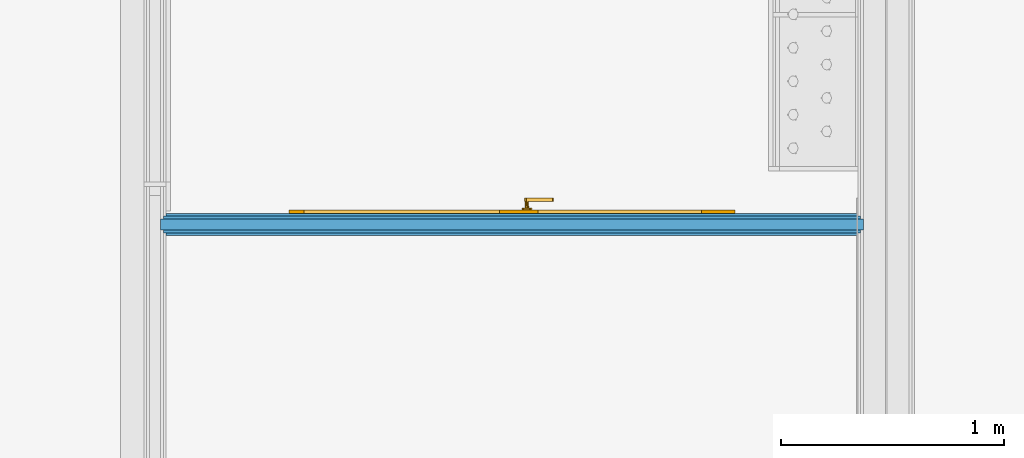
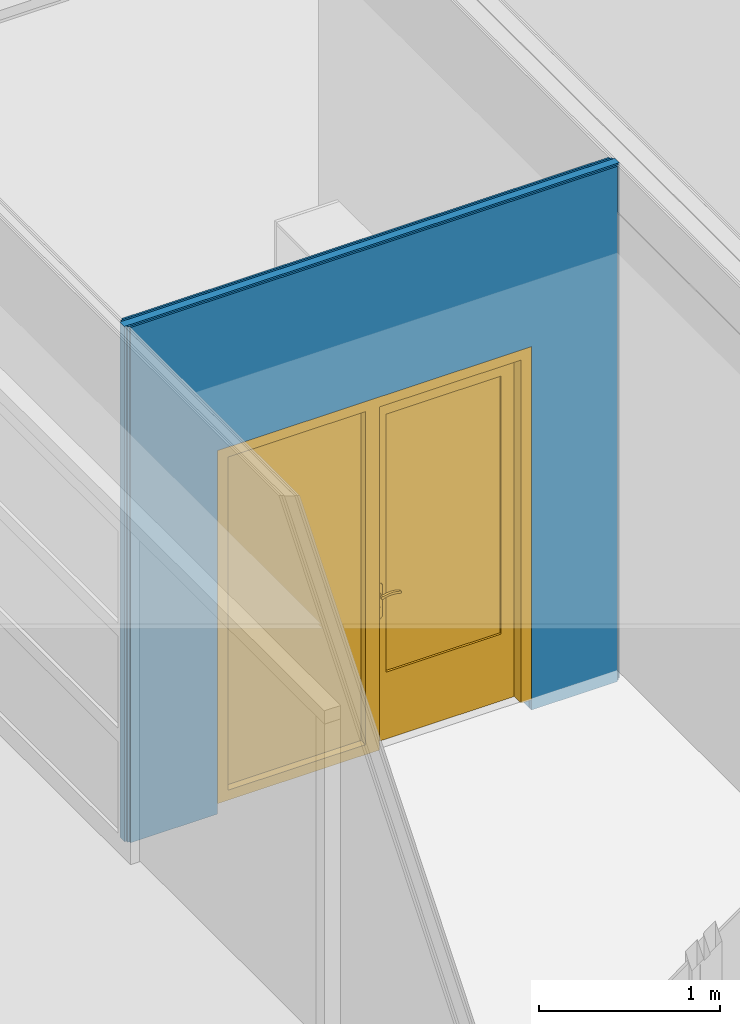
# One storey, part 13 of 788: 5 building element parts, 1 door, 1 opening, 1 element without a shape of its own.
"""IFC2X3 building model written with IfcOpenShell, lengths in millimetres."""

from ifc_helpers import new_model, entity, si_unit, converted_unit, derived_unit, money_unit, direction, frame, origin_with_axes, place, context, subcontext, project, spatial, open_shell, faceted_brep, surface_model, source, transform, mapped, material, type_object, type_shapes, element, fill, aggregate, save


model = new_model("IFC2X3")

# Units and contexts
model_context = context("Model", 3, precision=0.01, world=origin_with_axes(), true_north=direction((0.0, 1.0)))
plan_context = context("Plan", 3, precision=0.01, world=origin_with_axes(), true_north=direction((0.0, 1.0)))
body_context = subcontext(model_context, "Body", "Model", "MODEL_VIEW")
ifc_project = project(units=[si_unit("LENGTHUNIT", "METRE", prefix="MILLI"), si_unit("AREAUNIT", "SQUARE_METRE"), si_unit("VOLUMEUNIT", "CUBIC_METRE"), converted_unit("PLANEANGLEUNIT", "DEGREE", entity("IfcPlaneAngleMeasure", 0.0174532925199), si_unit("PLANEANGLEUNIT", "RADIAN"), dimensions=[0, 0, 0, 0, 0, 0, 0]), money_unit("EUR"), converted_unit("TIMEUNIT", "Year", entity("IfcTimeMeasure", 31556926.0), si_unit("TIMEUNIT", "SECOND"), dimensions=[0, 0, 1, 0, 0, 0, 0]), si_unit("MASSUNIT", "GRAM", prefix="KILO"), si_unit("THERMODYNAMICTEMPERATUREUNIT", "DEGREE_CELSIUS"), si_unit("LUMINOUSINTENSITYUNIT", "LUMEN"), si_unit("ENERGYUNIT", "JOULE", prefix="MEGA"), derived_unit("THERMALCONDUCTANCEUNIT", [(si_unit("POWERUNIT", "WATT"), 1), (si_unit("LENGTHUNIT", "METRE"), -1), (si_unit("THERMODYNAMICTEMPERATUREUNIT", "KELVIN"), -1)]), derived_unit("SPECIFICHEATCAPACITYUNIT", [(si_unit("ENERGYUNIT", "JOULE"), 1), (si_unit("MASSUNIT", "GRAM", prefix="KILO"), -1), (si_unit("THERMODYNAMICTEMPERATUREUNIT", "KELVIN"), -1)]), derived_unit("MASSDENSITYUNIT", [(si_unit("MASSUNIT", "GRAM", prefix="KILO"), 1), (si_unit("VOLUMEUNIT", "CUBIC_METRE"), -1)])], contexts=[model_context, plan_context])

# Site, building, storey
site_placement = place(None, origin_with_axes())
site = spatial("IfcSite", under=ifc_project, at=site_placement, Name="Site", CompositionType="ELEMENT")
building_placement = place(site_placement, origin_with_axes())
building = spatial("IfcBuilding", under=site, at=building_placement, Name="Naam gebouw", CompositionType="ELEMENT")
storey_placement = place(building_placement, origin_with_axes())
storey = spatial("IfcBuildingStorey", under=building, at=storey_placement, Name="Begane grond", CompositionType="ELEMENT", Elevation=0.0)

# Door
door_style = type_object("IfcDoorStyle", Name="D1 zl1-b 25", ConstructionType="NOTDEFINED", OperationType="SINGLE_SWING_RIGHT", ParameterTakesPrecedence=False, Sizeable=False)
shared_shape = source(origin_with_axes(), body_context, "Body", "SurfaceModel", [
    faceted_brep([(-1000.0, 0.0, 0.0), (-933.0, 0.0, 0.0), (-933.0, -114.0, 0.0), (-1000.0, -114.0, 0.0), (-1000.0, 0.0, 2310.0), (-933.0, 0.0, 2310.0), (-933.0, 0.0, 67.0), (-933.0, -114.0, 67.0), (-933.0, -114.0, 2310.0), (-1000.0, -114.0, 2310.0)], [[[0, 1, 2, 3]], [[0, 4, 5, 6, 1]], [[1, 6, 7, 2]], [[3, 2, 7, 8, 9]], [[4, 0, 3, 9]], [[5, 4, 9, 8]], [[6, 5, 8, 7]]]),
    faceted_brep([(33.0, -40.0, 0.0), (33.0, -40.0, 2310.0), (33.0, -114.0, 2310.0), (33.0, -114.0, 0.0), (16.0, -40.0, 2310.0), (16.0, -40.0, 0.0), (16.0, 0.0, 2310.0), (-57.0, 0.0, 2310.0), (-57.0, -114.0, 2310.0), (-57.0, -114.0, 0.0), (-57.0, -114.0, 67.0), (-57.0, 0.0, 0.0), (16.0, 0.0, 0.0), (-57.0, 0.0, 67.0)], [[[0, 1, 2, 3]], [[4, 1, 0, 5]], [[4, 6, 7, 8, 2, 1]], [[9, 3, 2, 8, 10]], [[5, 0, 3, 9, 11, 12]], [[6, 4, 5, 12]], [[6, 12, 11, 13, 7]], [[13, 10, 8, 7]], [[11, 9, 10, 13]]]),
    faceted_brep([(-933.0, 0.0, 67.0), (-933.0, 0.0, 0.0), (-933.0, -114.0, 0.0), (-933.0, -114.0, 67.0), (-57.0, 0.0, 67.0), (-57.0, 0.0, 0.0), (-57.0, -114.0, 0.0), (-57.0, -114.0, 67.0)], [[[0, 1, 2, 3]], [[0, 4, 5, 1]], [[1, 5, 6, 2]], [[3, 2, 6, 7]], [[4, 0, 3, 7]], [[5, 4, 7, 6]]]),
    faceted_brep([(950.0, -40.0, 2310.0), (933.0, -40.0, 2310.0), (933.0, -114.0, 2310.0), (1000.0, -114.0, 2310.0), (1000.0, 0.0, 2310.0), (950.0, 0.0, 2310.0), (950.0, -40.0, 0.0), (933.0, -40.0, 0.0), (933.0, -114.0, 0.0), (1000.0, -114.0, 0.0), (1000.0, 0.0, 0.0), (950.0, 0.0, 0.0)], [[[0, 1, 2, 3, 4, 5]], [[1, 0, 6, 7]], [[1, 7, 8, 2]], [[3, 2, 8, 9]], [[4, 3, 9, 10]], [[11, 5, 4, 10]], [[0, 5, 11, 6]], [[6, 11, 10, 9, 8, 7]]]),
    faceted_brep([(16.0, 0.0, 2327.0), (16.0, 0.0, 2310.0), (-57.0, 0.0, 2310.0), (-933.0, 0.0, 2310.0), (-1000.0, 0.0, 2310.0), (-1000.0, 0.0, 2377.0), (1000.0, 0.0, 2377.0), (1000.0, 0.0, 2310.0), (950.0, 0.0, 2310.0), (950.0, 0.0, 2327.0), (16.0, -40.0, 2327.0), (16.0, -40.0, 2310.0), (933.0, -40.0, 2310.0), (933.0, -114.0, 2310.0), (33.0, -114.0, 2310.0), (-57.0, -114.0, 2310.0), (-933.0, -114.0, 2310.0), (-1000.0, -114.0, 2310.0), (-1000.0, -114.0, 2377.0), (1000.0, -114.0, 2377.0), (1000.0, -114.0, 2310.0), (950.0, -40.0, 2310.0), (950.0, -40.0, 2327.0)], [[[0, 1, 2, 3, 4, 5, 6, 7, 8, 9]], [[1, 0, 10, 11]], [[11, 12, 13, 14, 15, 2, 1]], [[2, 15, 16, 3]], [[3, 16, 17, 4]], [[4, 17, 18, 5]], [[5, 18, 19, 6]], [[6, 19, 20, 7]], [[21, 8, 7, 20, 13, 12]], [[9, 8, 21, 22]], [[0, 9, 22, 10]], [[21, 12, 11, 10, 22]], [[13, 20, 19, 18, 17, 16, 15, 14]]]),
    faceted_brep([(61.2977179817, -80.0, 1006.47213595), (66.0, -80.0, 1008.0), (66.0, -60.0, 1008.0), (61.2977179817, -60.0, 1006.47213595), (58.3915478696, -80.0, 1002.47213595), (58.3915478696, -80.0, 997.527864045), (61.2977179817, -80.0, 993.527864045), (66.0, -80.0, 992.0), (70.7022820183, -80.0, 993.527864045), (73.6084521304, -80.0, 997.527864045), (73.6084521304, -80.0, 1002.47213595), (70.7022820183, -80.0, 1006.47213595), (70.7022820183, -60.0, 1006.47213595), (66.0, -58.0, 1010.0), (60.1221474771, -58.0, 1008.09016994), (58.3915478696, -60.0, 1002.47213595), (58.3915478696, -60.0, 997.527864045), (61.2977179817, -60.0, 993.527864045), (66.0, -60.0, 992.0), (70.7022820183, -60.0, 993.527864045), (73.6084521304, -60.0, 997.527864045), (73.6084521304, -60.0, 1002.47213595), (71.8778525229, -58.0, 1008.09016994), (66.0, -50.0, 1010.0), (60.1221474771, -50.0, 1008.09016994), (56.489434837, -58.0, 1003.09016994), (56.489434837, -58.0, 996.909830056), (60.1221474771, -58.0, 991.909830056), (66.0, -58.0, 990.0), (71.8778525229, -58.0, 991.909830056), (75.510565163, -58.0, 996.909830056), (75.510565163, -58.0, 1003.09016994), (71.8778525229, -50.0, 1008.09016994), (75.510565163, -50.0, 1003.09016994), (75.510565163, -50.0, 996.909830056), (71.8778525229, -50.0, 991.909830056), (66.0, -50.0, 990.0), (60.1221474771, -50.0, 991.909830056), (56.489434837, -50.0, 996.909830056), (56.489434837, -50.0, 1003.09016994)], [[[0, 1, 2, 3]], [[1, 0, 4, 5, 6, 7, 8, 9, 10, 11]], [[1, 11, 12, 2]], [[3, 2, 13, 14]], [[4, 0, 3, 15]], [[5, 4, 15, 16]], [[6, 5, 16, 17]], [[7, 6, 17, 18]], [[8, 7, 18, 19]], [[9, 8, 19, 20]], [[10, 9, 20, 21]], [[11, 10, 21, 12]], [[2, 12, 22, 13]], [[14, 13, 23, 24]], [[15, 3, 14, 25]], [[16, 15, 25, 26]], [[17, 16, 26, 27]], [[18, 17, 27, 28]], [[19, 18, 28, 29]], [[20, 19, 29, 30]], [[21, 20, 30, 31]], [[12, 21, 31, 22]], [[13, 22, 32, 23]], [[23, 32, 33, 34, 35, 36, 37, 38, 39, 24]], [[25, 14, 24, 39]], [[26, 25, 39, 38]], [[27, 26, 38, 37]], [[28, 27, 37, 36]], [[29, 28, 36, 35]], [[30, 29, 35, 34]], [[31, 30, 34, 33]], [[22, 31, 33, 32]]]),
    faceted_brep([(78.1883833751, -50.0, 1067.59695641), (70.4435558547, -50.0, 1071.95567195), (61.5564441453, -50.0, 1071.95567195), (53.8116166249, -50.0, 1067.59695641), (49.2, -50.0, 1060.0), (43.5, -50.0, 1060.0), (43.5, -50.0, 840.0), (49.2, -50.0, 840.0), (53.8116166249, -50.0, 832.403043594), (61.5564441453, -50.0, 828.044328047), (70.4435558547, -50.0, 828.044328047), (78.1883833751, -50.0, 832.403043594), (82.8, -50.0, 840.0), (88.5, -50.0, 840.0), (88.5, -50.0, 1060.0), (82.8, -50.0, 1060.0), (66.0, -50.0, 917.425445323), (71.375182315, -50.0, 915.143815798), (73.4678307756, -50.0, 909.692280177), (71.0, -50.0, 904.4), (71.0, -50.0, 887.5), (69.5355339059, -50.0, 883.964466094), (66.0, -50.0, 882.5), (62.4644660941, -50.0, 883.964466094), (61.0, -50.0, 887.5), (61.0, -50.0, 904.4), (58.5321692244, -50.0, 909.692280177), (60.624817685, -50.0, 915.143815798), (78.1883833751, -40.0, 1067.59695641), (70.4435558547, -40.0, 1071.95567195), (61.5564441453, -40.0, 1071.95567195), (53.8116166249, -40.0, 1067.59695641), (49.2, -40.0, 1060.0), (43.5, -40.0, 1060.0), (43.5, -40.0, 840.0), (49.2, -40.0, 840.0), (53.8116166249, -40.0, 832.403043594), (61.5564441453, -40.0, 828.044328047), (70.4435558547, -40.0, 828.044328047), (78.1883833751, -40.0, 832.403043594), (82.8, -40.0, 840.0), (88.5, -40.0, 840.0), (88.5, -40.0, 1060.0), (82.8, -40.0, 1060.0), (66.0, -40.0, 917.425445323), (71.375182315, -40.0, 915.143815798), (73.4678307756, -40.0, 909.692280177), (71.0, -40.0, 904.4), (71.0, -40.0, 887.5), (69.5355339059, -40.0, 883.964466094), (66.0, -40.0, 882.5), (62.4644660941, -40.0, 883.964466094), (61.0, -40.0, 887.5), (61.0, -40.0, 904.4), (58.5321692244, -40.0, 909.692280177), (60.624817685, -40.0, 915.143815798)], [[[0, 1, 2, 3, 4, 5, 6, 7, 8, 9, 10, 11, 12, 13, 14, 15], [16, 17, 18, 19, 20, 21, 22, 23, 24, 25, 26, 27]], [[1, 0, 28, 29]], [[2, 1, 29, 30]], [[3, 2, 30, 31]], [[4, 3, 31, 32]], [[5, 4, 32, 33]], [[6, 5, 33, 34]], [[7, 6, 34, 35]], [[8, 7, 35, 36]], [[9, 8, 36, 37]], [[10, 9, 37, 38]], [[11, 10, 38, 39]], [[12, 11, 39, 40]], [[13, 12, 40, 41]], [[14, 13, 41, 42]], [[15, 14, 42, 43]], [[0, 15, 43, 28]], [[17, 16, 44, 45]], [[18, 17, 45, 46]], [[19, 18, 46, 47]], [[19, 47, 48, 20]], [[20, 48, 49, 21]], [[21, 49, 50, 22]], [[22, 50, 51, 23]], [[23, 51, 52, 24]], [[53, 25, 24, 52]], [[26, 25, 53, 54]], [[27, 26, 54, 55]], [[16, 27, 55, 44]], [[40, 39, 38, 37, 36, 35, 34, 33, 32, 31, 30, 29, 28, 43, 42, 41], [54, 53, 52, 51, 50, 49, 48, 47, 46, 45, 44, 55]]]),
    faceted_brep([(180.253, -80.0, 1007.158), (180.253, -95.0, 1007.158), (180.254491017, -95.0, 1007.19388416), (180.254491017, -80.0, 1007.19388416), (153.225369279, -80.0, 1014.32652034), (153.225369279, -95.0, 1014.32652034), (125.397256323, -95.0, 1017.06086405), (97.4912596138, -95.0, 1015.29002982), (70.232, -95.0, 1009.06), (63.8294248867, -95.0, 1009.76125134), (58.3273660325, -95.0, 1006.41280843), (56.0084873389, -95.0, 1000.40385485), (57.8348324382, -95.0, 994.227352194), (63.0486973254, -95.0, 990.445773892), (69.4869824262, -95.0, 990.628000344), (74.4786074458, -95.0, 994.698430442), (74.458, -95.0, 994.666), (99.7467138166, -95.0, 1000.19878945), (125.589181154, -95.0, 1001.71460194), (151.351315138, -95.0, 999.176244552), (176.401, -95.0, 992.646), (181.944184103, -95.0, 993.568490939), (185.30572551, -95.0, 998.071591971), (184.614155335, -95.0, 1003.64829442), (184.614155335, -80.0, 1003.64829442), (185.30572551, -80.0, 998.071591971), (181.944184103, -80.0, 993.568490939), (176.401, -80.0, 992.646), (151.351315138, -80.0, 999.176244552), (125.589181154, -80.0, 1001.71460194), (99.7467138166, -80.0, 1000.19878945), (74.458, -80.0, 994.666), (74.4786074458, -80.0, 994.698430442), (69.4869824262, -80.0, 990.628000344), (63.0486973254, -80.0, 990.445773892), (57.8348324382, -80.0, 994.227352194), (56.0084873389, -80.0, 1000.40385485), (58.3273660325, -80.0, 1006.41280843), (63.8294248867, -80.0, 1009.76125134), (70.232, -80.0, 1009.06), (97.4912596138, -80.0, 1015.29002982), (125.397256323, -80.0, 1017.06086405)], [[[0, 1, 2, 3]], [[4, 5, 1, 0]], [[1, 5, 6, 7, 8, 9, 10, 11, 12, 13, 14, 15, 16, 17, 18, 19, 20, 21, 22, 23, 2]], [[3, 2, 23, 24]], [[0, 3, 24, 25, 26, 27, 28, 29, 30, 31, 32, 33, 34, 35, 36, 37, 38, 39, 40, 41, 4]], [[41, 6, 5, 4]], [[40, 7, 6, 41]], [[39, 8, 7, 40]], [[38, 9, 8, 39]], [[37, 10, 9, 38]], [[36, 11, 10, 37]], [[35, 12, 11, 36]], [[34, 13, 12, 35]], [[33, 14, 13, 34]], [[32, 15, 14, 33]], [[31, 16, 15, 32]], [[30, 17, 16, 31]], [[29, 18, 17, 30]], [[28, 19, 18, 29]], [[27, 20, 19, 28]], [[26, 21, 20, 27]], [[25, 22, 21, 26]], [[24, 23, 22, 25]]]),
    faceted_brep([(61.2977179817, 40.0, 1006.47213595), (61.2977179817, 20.0, 1006.47213595), (66.0, 20.0, 1008.0), (66.0, 40.0, 1008.0), (58.3915478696, 40.0, 1002.47213595), (58.3915478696, 20.0, 1002.47213595), (60.1221474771, 18.0, 1008.09016994), (66.0, 18.0, 1010.0), (70.7022820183, 20.0, 1006.47213595), (70.7022820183, 40.0, 1006.47213595), (73.6084521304, 40.0, 1002.47213595), (73.6084521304, 40.0, 997.527864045), (70.7022820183, 40.0, 993.527864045), (66.0, 40.0, 992.0), (61.2977179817, 40.0, 993.527864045), (58.3915478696, 40.0, 997.527864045), (58.3915478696, 20.0, 997.527864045), (56.489434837, 18.0, 1003.09016994), (60.1221474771, 10.0, 1008.09016994), (66.0, 10.0, 1010.0), (71.8778525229, 18.0, 1008.09016994), (73.6084521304, 20.0, 1002.47213595), (73.6084521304, 20.0, 997.527864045), (70.7022820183, 20.0, 993.527864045), (66.0, 20.0, 992.0), (61.2977179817, 20.0, 993.527864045), (56.489434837, 18.0, 996.909830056), (56.489434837, 10.0, 1003.09016994), (56.489434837, 10.0, 996.909830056), (60.1221474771, 10.0, 991.909830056), (66.0, 10.0, 990.0), (71.8778525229, 10.0, 991.909830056), (75.510565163, 10.0, 996.909830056), (75.510565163, 10.0, 1003.09016994), (71.8778525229, 10.0, 1008.09016994), (75.510565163, 18.0, 1003.09016994), (75.510565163, 18.0, 996.909830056), (71.8778525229, 18.0, 991.909830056), (66.0, 18.0, 990.0), (60.1221474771, 18.0, 991.909830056)], [[[0, 1, 2, 3]], [[4, 5, 1, 0]], [[1, 6, 7, 2]], [[3, 2, 8, 9]], [[3, 9, 10, 11, 12, 13, 14, 15, 4, 0]], [[15, 16, 5, 4]], [[5, 17, 6, 1]], [[6, 18, 19, 7]], [[2, 7, 20, 8]], [[9, 8, 21, 10]], [[10, 21, 22, 11]], [[11, 22, 23, 12]], [[12, 23, 24, 13]], [[13, 24, 25, 14]], [[14, 25, 16, 15]], [[16, 26, 17, 5]], [[17, 27, 18, 6]], [[19, 18, 27, 28, 29, 30, 31, 32, 33, 34]], [[7, 19, 34, 20]], [[8, 20, 35, 21]], [[21, 35, 36, 22]], [[22, 36, 37, 23]], [[23, 37, 38, 24]], [[24, 38, 39, 25]], [[25, 39, 26, 16]], [[26, 28, 27, 17]], [[39, 29, 28, 26]], [[38, 30, 29, 39]], [[37, 31, 30, 38]], [[36, 32, 31, 37]], [[35, 33, 32, 36]], [[20, 34, 33, 35]]]),
    faceted_brep([(78.1883833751, 0.0, 1067.59695641), (70.4435558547, 0.0, 1071.95567195), (61.5564441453, 0.0, 1071.95567195), (53.8116166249, 0.0, 1067.59695641), (49.2, 0.0, 1060.0), (43.5, 0.0, 1060.0), (43.5, 0.0, 840.0), (49.2, 0.0, 840.0), (53.8116166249, 0.0, 832.403043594), (61.5564441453, 0.0, 828.044328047), (70.4435558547, 0.0, 828.044328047), (78.1883833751, 0.0, 832.403043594), (82.8, 0.0, 840.0), (88.5, 0.0, 840.0), (88.5, 0.0, 1060.0), (82.8, 0.0, 1060.0), (66.0, 0.0, 917.425445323), (71.375182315, 0.0, 915.143815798), (73.4678307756, 0.0, 909.692280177), (71.0, 0.0, 904.4), (71.0, 0.0, 887.5), (69.5355339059, 0.0, 883.964466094), (66.0, 0.0, 882.5), (62.4644660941, 0.0, 883.964466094), (61.0, 0.0, 887.5), (61.0, 0.0, 904.4), (58.5321692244, 0.0, 909.692280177), (60.624817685, 0.0, 915.143815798), (70.4435558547, 10.0, 1071.95567195), (78.1883833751, 10.0, 1067.59695641), (61.5564441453, 10.0, 1071.95567195), (53.8116166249, 10.0, 1067.59695641), (49.2, 10.0, 1060.0), (43.5, 10.0, 1060.0), (43.5, 10.0, 840.0), (49.2, 10.0, 840.0), (53.8116166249, 10.0, 832.403043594), (61.5564441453, 10.0, 828.044328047), (70.4435558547, 10.0, 828.044328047), (78.1883833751, 10.0, 832.403043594), (82.8, 10.0, 840.0), (88.5, 10.0, 840.0), (88.5, 10.0, 1060.0), (82.8, 10.0, 1060.0), (66.0, 10.0, 917.425445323), (71.375182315, 10.0, 915.143815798), (73.4678307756, 10.0, 909.692280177), (71.0, 10.0, 904.4), (71.0, 10.0, 887.5), (69.5355339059, 10.0, 883.964466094), (66.0, 10.0, 882.5), (62.4644660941, 10.0, 883.964466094), (61.0, 10.0, 887.5), (61.0, 10.0, 904.4), (58.5321692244, 10.0, 909.692280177), (60.624817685, 10.0, 915.143815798)], [[[0, 1, 2, 3, 4, 5, 6, 7, 8, 9, 10, 11, 12, 13, 14, 15], [16, 17, 18, 19, 20, 21, 22, 23, 24, 25, 26, 27]], [[28, 1, 0, 29]], [[30, 2, 1, 28]], [[31, 3, 2, 30]], [[32, 4, 3, 31]], [[33, 5, 4, 32]], [[34, 6, 5, 33]], [[35, 7, 6, 34]], [[36, 8, 7, 35]], [[37, 9, 8, 36]], [[38, 10, 9, 37]], [[39, 11, 10, 38]], [[40, 12, 11, 39]], [[41, 13, 12, 40]], [[42, 14, 13, 41]], [[43, 15, 14, 42]], [[29, 0, 15, 43]], [[17, 16, 44, 45]], [[18, 17, 45, 46]], [[19, 18, 46, 47]], [[19, 47, 48, 20]], [[20, 48, 49, 21]], [[21, 49, 50, 22]], [[22, 50, 51, 23]], [[23, 51, 52, 24]], [[53, 25, 24, 52]], [[26, 25, 53, 54]], [[27, 26, 54, 55]], [[16, 27, 55, 44]], [[40, 39, 38, 37, 36, 35, 34, 33, 32, 31, 30, 28, 29, 43, 42, 41], [54, 53, 52, 51, 50, 49, 48, 47, 46, 45, 44, 55]]]),
    faceted_brep([(180.253, 40.0, 1007.158), (180.254491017, 40.0, 1007.19388416), (180.254491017, 55.0, 1007.19388416), (180.253, 55.0, 1007.158), (153.225369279, 40.0, 1014.32652034), (125.397256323, 40.0, 1017.06086405), (97.4912596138, 40.0, 1015.29002982), (70.232, 40.0, 1009.06), (63.8294248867, 40.0, 1009.76125134), (58.3273660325, 40.0, 1006.41280843), (56.0084873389, 40.0, 1000.40385485), (57.8348324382, 40.0, 994.227352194), (63.0486973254, 40.0, 990.445773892), (69.4869824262, 40.0, 990.628000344), (74.4786074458, 40.0, 994.698430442), (74.458, 40.0, 994.666), (99.7467138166, 40.0, 1000.19878945), (125.589181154, 40.0, 1001.71460194), (151.351315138, 40.0, 999.176244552), (176.401, 40.0, 992.646), (181.944184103, 40.0, 993.568490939), (185.30572551, 40.0, 998.071591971), (184.614155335, 40.0, 1003.64829442), (184.614155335, 55.0, 1003.64829442), (185.30572551, 55.0, 998.071591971), (181.944184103, 55.0, 993.568490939), (176.401, 55.0, 992.646), (151.351315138, 55.0, 999.176244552), (125.589181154, 55.0, 1001.71460194), (99.7467138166, 55.0, 1000.19878945), (74.458, 55.0, 994.666), (74.4786074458, 55.0, 994.698430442), (69.4869824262, 55.0, 990.628000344), (63.0486973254, 55.0, 990.445773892), (57.8348324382, 55.0, 994.227352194), (56.0084873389, 55.0, 1000.40385485), (58.3273660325, 55.0, 1006.41280843), (63.8294248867, 55.0, 1009.76125134), (70.232, 55.0, 1009.06), (97.4912596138, 55.0, 1015.29002982), (125.397256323, 55.0, 1017.06086405), (153.225369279, 55.0, 1014.32652034)], [[[0, 1, 2, 3]], [[0, 4, 5, 6, 7, 8, 9, 10, 11, 12, 13, 14, 15, 16, 17, 18, 19, 20, 21, 22, 1]], [[1, 22, 23, 2]], [[3, 2, 23, 24, 25, 26, 27, 28, 29, 30, 31, 32, 33, 34, 35, 36, 37, 38, 39, 40, 41]], [[4, 0, 3, 41]], [[5, 4, 41, 40]], [[6, 5, 40, 39]], [[7, 6, 39, 38]], [[8, 7, 38, 37]], [[9, 8, 37, 36]], [[10, 9, 36, 35]], [[11, 10, 35, 34]], [[12, 11, 34, 33]], [[13, 12, 33, 32]], [[14, 13, 32, 31]], [[15, 14, 31, 30]], [[16, 15, 30, 29]], [[17, 16, 29, 28]], [[18, 17, 28, 27]], [[19, 18, 27, 26]], [[20, 19, 26, 25]], [[21, 20, 25, 24]], [[22, 21, 24, 23]]]),
    faceted_brep([(950.0, 0.0, 450.0), (950.0, -40.0, 450.0), (850.0, -40.0, 450.0), (850.0, 0.0, 450.0), (950.0, 0.0, 2187.0), (950.0, -40.0, 2187.0), (850.0, -40.0, 2187.0), (850.0, 0.0, 2187.0)], [[[0, 1, 2, 3]], [[4, 5, 1, 0]], [[1, 5, 6, 2]], [[3, 2, 6, 7]], [[0, 3, 7, 4]], [[7, 6, 5, 4]]]),
    faceted_brep([(16.0, 0.0, 450.0), (16.0, -40.0, 450.0), (16.0, -40.0, 2187.0), (16.0, 0.0, 2187.0), (116.0, 0.0, 450.0), (116.0, -40.0, 450.0), (116.0, -40.0, 2187.0), (116.0, 0.0, 2187.0)], [[[0, 1, 2, 3]], [[4, 5, 1, 0]], [[1, 5, 6, 2]], [[3, 2, 6, 7]], [[0, 3, 7, 4]], [[7, 6, 5, 4]]]),
    faceted_brep([(950.0, 0.0, 0.0), (950.0, -40.0, 0.0), (16.0, -40.0, 0.0), (16.0, 0.0, 0.0), (950.0, 0.0, 450.0), (950.0, -40.0, 450.0), (850.0, -40.0, 450.0), (116.0, -40.0, 450.0), (16.0, -40.0, 450.0), (16.0, 0.0, 450.0), (116.0, 0.0, 450.0), (850.0, 0.0, 450.0)], [[[0, 1, 2, 3]], [[4, 5, 1, 0]], [[1, 5, 6, 7, 8, 2]], [[3, 2, 8, 9]], [[0, 3, 9, 10, 11, 4]], [[11, 6, 5, 4]], [[10, 7, 6, 11]], [[9, 8, 7, 10]]]),
    faceted_brep([(950.0, 0.0, 2327.0), (950.0, -40.0, 2327.0), (950.0, -40.0, 2187.0), (950.0, 0.0, 2187.0), (16.0, 0.0, 2327.0), (16.0, -40.0, 2327.0), (16.0, -40.0, 2187.0), (116.0, -40.0, 2187.0), (850.0, -40.0, 2187.0), (850.0, 0.0, 2187.0), (116.0, 0.0, 2187.0), (16.0, 0.0, 2187.0)], [[[0, 1, 2, 3]], [[4, 5, 1, 0]], [[1, 5, 6, 7, 8, 2]], [[3, 2, 8, 9]], [[0, 3, 9, 10, 11, 4]], [[11, 6, 5, 4]], [[10, 7, 6, 11]], [[9, 8, 7, 10]]]),
    surface_model("IfcShellBasedSurfaceModel", [(850.0, -14.0, 450.0), (116.0, -14.0, 450.0), (116.0, -14.0, 2187.0), (850.0, -14.0, 2187.0)], [open_shell([[[0, 1, 2, 3]]])]),
    surface_model("IfcShellBasedSurfaceModel", [(850.0, -26.0, 450.0), (850.0, -26.0, 2187.0), (116.0, -26.0, 2187.0), (116.0, -26.0, 450.0)], [open_shell([[[0, 1, 2, 3]]])]),
    surface_model("IfcShellBasedSurfaceModel", [(-933.0, -54.0, 67.0), (-933.0, -54.0, 2310.0), (-57.0, -54.0, 2310.0), (-57.0, -54.0, 67.0)], [open_shell([[[0, 1, 2, 3]]])]),
    surface_model("IfcShellBasedSurfaceModel", [(-933.0, -66.0, 67.0), (-57.0, -66.0, 67.0), (-57.0, -66.0, 2310.0), (-933.0, -66.0, 2310.0)], [open_shell([[[0, 1, 2, 3]]])]),
])
type_shapes(door_style, [shared_shape])
wall_placement = place(storey_placement, frame((10863.9874245, 7219.99642804, -70.0), z_axis=(0.0, 0.0, 1.0), x_axis=(1.0, 0.0, 0.0)))
opening_placement = place(wall_placement, frame((1602.00953938, 0.0, 70.0), z_axis=(0.0, 0.0, 1.0), x_axis=(1.0, 0.0, 0.0)))
door_placement = place(opening_placement, frame((-1000.0, 0.0, 0.0), z_axis=(0.0, 0.0, 1.0), x_axis=(1.0, 0.0, 0.0)))
door = element("IfcDoor", 1, at=door_placement, inside=storey, type_object=door_style, Name="b1.23g", ObjectType="DOOR", OverallHeight=2377.0, OverallWidth=2000.0, context=body_context, shape_type="MappedRepresentation", body=[
    mapped(shared_shape, transform((1000.0, 64.0, 0.0))),
])

# Wall, opening
wall_type = type_object("IfcWallType", Name="22 Metalstud 100mm 100", PredefinedType="ELEMENTEDWALL")
wall = element("IfcWall", 2, at=wall_placement, inside=storey, type_object=wall_type, Name="Metalstud 100mm")
opening = element("IfcOpeningElement", 3, at=opening_placement, cuts=wall, Name="b1.23g", context=body_context, shape_type="Brep", body=[
    faceted_brep([(1000.0, -100.0, 2377.0), (1000.0, -100.0, 0.0), (1000.0, 214.0, 0.0), (1000.0, 214.0, 2377.0), (-1000.0, -100.0, 2377.0), (-1000.0, -100.0, 0.0), (-1000.0, 214.0, 0.0), (-1000.0, 214.0, 2377.0)], [[[0, 1, 2, 3]], [[0, 4, 5, 1]], [[1, 5, 6, 2]], [[3, 2, 6, 7]], [[4, 0, 3, 7]], [[5, 4, 7, 6]]]),
])

fill(opening, door)

# Building element part
ifc_material_1 = material(Name="Gipsplaat")
building_element_part_1_placement = place(wall_placement, origin_with_axes())
building_element_part_1 = element("IfcBuildingElementPart", 4, at=building_element_part_1_placement, material=ifc_material_1, Name="Gipsplaat", context=body_context, shape_type="Brep", body=[
    faceted_brep([(602.009539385, 50.0, 2447.0), (602.009539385, 50.0, 70.0), (602.009539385, 50.0, 0.0), (50.0, 50.0, 0.0), (50.0, 50.0, 3470.0), (3152.10943638, 50.0, 3470.0), (3152.10943638, 50.0, 0.0), (2602.00953938, 50.0, 0.0), (2602.00953938, 50.0, 70.0), (2602.00953938, 50.0, 2447.0), (602.009539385, 37.5, 2447.0), (602.009539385, 37.5, 70.0), (602.009539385, 37.5, 0.0), (50.0, 37.5, 0.0), (50.0, 37.5, 3470.0), (3152.10943638, 37.5, 3470.0), (3152.10943638, 37.5, 0.0), (2602.00953938, 37.5, 0.0), (2602.00953938, 37.5, 70.0), (2602.00953938, 37.5, 2447.0)], [[[0, 1, 2, 3, 4, 5, 6, 7, 8, 9]], [[1, 0, 10, 11]], [[1, 11, 12, 2]], [[12, 13, 3, 2]], [[14, 4, 3, 13]], [[5, 4, 14, 15]], [[15, 16, 6, 5]], [[7, 6, 16, 17]], [[18, 8, 7, 17]], [[9, 8, 18, 19]], [[0, 9, 19, 10]], [[19, 18, 17, 16, 15, 14, 13, 12, 11, 10]]]),
])

building_element_part_2_placement = place(wall_placement, origin_with_axes())
building_element_part_2 = element("IfcBuildingElementPart", 5, at=building_element_part_2_placement, material=ifc_material_1, Name="Gipsplaat", context=body_context, shape_type="Brep", body=[
    faceted_brep([(602.009539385, 37.5, 2447.0), (602.009539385, 37.5, 70.0), (602.009539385, 37.5, 0.0), (37.5, 37.5, 0.0), (37.5, 37.5, 3470.0), (3164.60943638, 37.5, 3470.0), (3164.60943638, 37.5, 0.0), (2602.00953938, 37.5, 0.0), (2602.00953938, 37.5, 70.0), (2602.00953938, 37.5, 2447.0), (602.009539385, 25.0, 2447.0), (602.009539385, 25.0, 70.0), (602.009539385, 25.0, 0.0), (37.5, 25.0, 0.0), (37.5, 25.0, 3470.0), (3164.60943638, 25.0, 3470.0), (3164.60943638, 25.0, 0.0), (2602.00953938, 25.0, 0.0), (2602.00953938, 25.0, 70.0), (2602.00953938, 25.0, 2447.0)], [[[0, 1, 2, 3, 4, 5, 6, 7, 8, 9]], [[1, 0, 10, 11]], [[1, 11, 12, 2]], [[12, 13, 3, 2]], [[14, 4, 3, 13]], [[5, 4, 14, 15]], [[15, 16, 6, 5]], [[7, 6, 16, 17]], [[18, 8, 7, 17]], [[9, 8, 18, 19]], [[0, 9, 19, 10]], [[19, 18, 17, 16, 15, 14, 13, 12, 11, 10]]]),
])

ifc_material_2 = material(Name="Isolatie - Steenwol LSW")
building_element_part_3_placement = place(wall_placement, origin_with_axes())
building_element_part_3 = element("IfcBuildingElementPart", 6, at=building_element_part_3_placement, material=ifc_material_2, Name="Isolatie - Steenwol LSW", context=body_context, shape_type="Brep", body=[
    faceted_brep([(602.009539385, 25.0, 2447.0), (602.009539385, 25.0, 70.0), (602.009539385, 25.0, 0.0), (25.0, 25.0, 0.0), (25.0, 25.0, 3470.0), (3177.10943638, 25.0, 3470.0), (3177.10943638, 25.0, 0.0), (2602.00953938, 25.0, 0.0), (2602.00953938, 25.0, 70.0), (2602.00953938, 25.0, 2447.0), (602.009539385, -25.0, 2447.0), (602.009539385, -25.0, 70.0), (602.009539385, -25.0, 0.0), (25.0, -25.0, 0.0), (25.0, -25.0, 3470.0), (3177.10943638, -25.0, 3470.0), (3177.10943638, -25.0, 0.0), (2602.00953938, -25.0, 0.0), (2602.00953938, -25.0, 70.0), (2602.00953938, -25.0, 2447.0)], [[[0, 1, 2, 3, 4, 5, 6, 7, 8, 9]], [[1, 0, 10, 11]], [[1, 11, 12, 2]], [[12, 13, 3, 2]], [[14, 4, 3, 13]], [[5, 4, 14, 15]], [[15, 16, 6, 5]], [[7, 6, 16, 17]], [[18, 8, 7, 17]], [[9, 8, 18, 19]], [[0, 9, 19, 10]], [[19, 18, 17, 16, 15, 14, 13, 12, 11, 10]]]),
])

building_element_part_4_placement = place(wall_placement, origin_with_axes())
building_element_part_4 = element("IfcBuildingElementPart", 7, at=building_element_part_4_placement, material=ifc_material_1, Name="Gipsplaat", context=body_context, shape_type="Brep", body=[
    faceted_brep([(602.009539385, -25.0, 2447.0), (602.009539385, -25.0, 70.0), (602.009539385, -25.0, 0.0), (37.5, -25.0, 0.0), (37.5, -25.0, 3470.0), (3164.60943638, -25.0, 3470.0), (3164.60943638, -25.0, 0.0), (2602.00953938, -25.0, 0.0), (2602.00953938, -25.0, 70.0), (2602.00953938, -25.0, 2447.0), (602.009539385, -37.5, 2447.0), (602.009539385, -37.5, 70.0), (602.009539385, -37.5, 0.0), (37.5, -37.5, 0.0), (37.5, -37.5, 3470.0), (3164.60943638, -37.5, 3470.0), (3164.60943638, -37.5, 0.0), (2602.00953938, -37.5, 0.0), (2602.00953938, -37.5, 70.0), (2602.00953938, -37.5, 2447.0)], [[[0, 1, 2, 3, 4, 5, 6, 7, 8, 9]], [[1, 0, 10, 11]], [[1, 11, 12, 2]], [[12, 13, 3, 2]], [[14, 4, 3, 13]], [[5, 4, 14, 15]], [[15, 16, 6, 5]], [[7, 6, 16, 17]], [[18, 8, 7, 17]], [[9, 8, 18, 19]], [[0, 9, 19, 10]], [[19, 18, 17, 16, 15, 14, 13, 12, 11, 10]]]),
])

building_element_part_5_placement = place(wall_placement, origin_with_axes())
building_element_part_5 = element("IfcBuildingElementPart", 8, at=building_element_part_5_placement, material=ifc_material_1, Name="Gipsplaat", context=body_context, shape_type="Brep", body=[
    faceted_brep([(602.009539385, -37.5, 2447.0), (602.009539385, -37.5, 70.0), (602.009539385, -37.5, 0.0), (50.0, -37.5, 0.0), (50.0, -37.5, 3470.0), (3152.10943638, -37.5, 3470.0), (3152.10943638, -37.5, 0.0), (2602.00953938, -37.5, 0.0), (2602.00953938, -37.5, 70.0), (2602.00953938, -37.5, 2447.0), (602.009539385, -50.0, 2447.0), (602.009539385, -50.0, 70.0), (602.009539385, -50.0, 0.0), (50.0, -50.0, 0.0), (50.0, -50.0, 3470.0), (3152.10943638, -50.0, 3470.0), (3152.10943638, -50.0, 0.0), (2602.00953938, -50.0, 0.0), (2602.00953938, -50.0, 70.0), (2602.00953938, -50.0, 2447.0)], [[[0, 1, 2, 3, 4, 5, 6, 7, 8, 9]], [[1, 0, 10, 11]], [[1, 11, 12, 2]], [[12, 13, 3, 2]], [[14, 4, 3, 13]], [[5, 4, 14, 15]], [[15, 16, 6, 5]], [[7, 6, 16, 17]], [[18, 8, 7, 17]], [[9, 8, 18, 19]], [[0, 9, 19, 10]], [[19, 18, 17, 16, 15, 14, 13, 12, 11, 10]]]),
])

aggregate(wall, [building_element_part_1, building_element_part_2, building_element_part_3, building_element_part_4, building_element_part_5])

save(model, "model.ifc")
